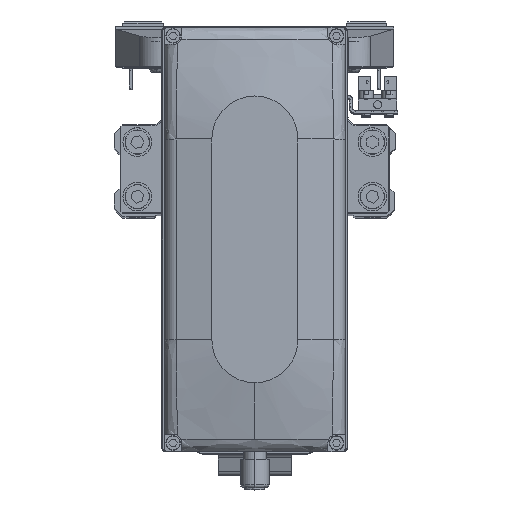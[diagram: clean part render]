
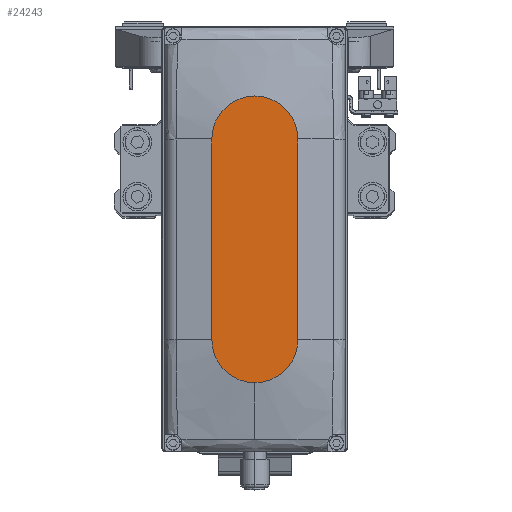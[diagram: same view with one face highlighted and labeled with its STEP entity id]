
A CAD part, top view. The second image highlights one B-rep face of the part: STEP entity #24243.
In plain terms, the highlighted planar face has unit normal (0, 0, 1).
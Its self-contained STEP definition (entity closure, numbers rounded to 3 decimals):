
#867 = CARTESIAN_POINT ( 'NONE',  ( 35., 0., 35. ) ) ;
#1506 = DIRECTION ( 'NONE',  ( 0., 0., 1. ) ) ;
#1923 = CARTESIAN_POINT ( 'NONE',  ( -35., 15., 35. ) ) ;
#3276 = ORIENTED_EDGE ( 'NONE', *, *, #4867, .T. ) ;
#3700 = EDGE_CURVE ( 'NONE', #7565, #12250, #35465, .T. ) ;
#4597 = CIRCLE ( 'NONE', #29237, 15. ) ;
#4832 = DIRECTION ( 'NONE',  ( 0., 0., 1. ) ) ;
#4867 = EDGE_CURVE ( 'NONE', #12250, #23376, #4597, .T. ) ;
#5233 = CARTESIAN_POINT ( 'NONE',  ( -35., -15., 35. ) ) ;
#5633 = VERTEX_POINT ( 'NONE', #17522 ) ;
#6572 = EDGE_CURVE ( 'NONE', #23376, #5633, #12443, .T. ) ;
#6641 = DIRECTION ( 'NONE',  ( 1., 0., 0. ) ) ;
#7565 = VERTEX_POINT ( 'NONE', #37791 ) ;
#9933 = PLANE ( 'NONE',  #12499 ) ;
#12250 = VERTEX_POINT ( 'NONE', #42303 ) ;
#12443 = CIRCLE ( 'NONE', #37115, 15. ) ;
#12489 = CARTESIAN_POINT ( 'NONE',  ( 50., 0., 35. ) ) ;
#12499 = AXIS2_PLACEMENT_3D ( 'NONE', #23418, #36864, #6641 ) ;
#12793 = AXIS2_PLACEMENT_3D ( 'NONE', #35071, #4832, #18290 ) ;
#14327 = DIRECTION ( 'NONE',  ( 0., 0., 1. ) ) ;
#14415 = CARTESIAN_POINT ( 'NONE',  ( -35., 15., 35. ) ) ;
#14958 = DIRECTION ( 'NONE',  ( 1., 0., 0. ) ) ;
#15370 = DIRECTION ( 'NONE',  ( -1., 0., 0. ) ) ;
#16625 = ORIENTED_EDGE ( 'NONE', *, *, #3700, .T. ) ;
#17522 = CARTESIAN_POINT ( 'NONE',  ( 35., 15., 35. ) ) ;
#17932 = VERTEX_POINT ( 'NONE', #14415 ) ;
#18290 = DIRECTION ( 'NONE',  ( 1., 0., 0. ) ) ;
#18639 = VECTOR ( 'NONE', #18693, 1000. ) ;
#18693 = DIRECTION ( 'NONE',  ( 1., 0., 0. ) ) ;
#23376 = VERTEX_POINT ( 'NONE', #12489 ) ;
#23418 = CARTESIAN_POINT ( 'NONE',  ( 0., 0., 35. ) ) ;
#24199 = EDGE_LOOP ( 'NONE', ( #35817, #25776, #16625, #3276, #27851 ) ) ;
#24243 = ADVANCED_FACE ( 'NONE', ( #40172 ), #9933, .T. ) ;
#25776 = ORIENTED_EDGE ( 'NONE', *, *, #34197, .T. ) ;
#27792 = DIRECTION ( 'NONE',  ( 1., 0., 0. ) ) ;
#27851 = ORIENTED_EDGE ( 'NONE', *, *, #6572, .T. ) ;
#29237 = AXIS2_PLACEMENT_3D ( 'NONE', #31722, #1506, #14958 ) ;
#31722 = CARTESIAN_POINT ( 'NONE',  ( 35., 0., 35. ) ) ;
#31830 = CIRCLE ( 'NONE', #12793, 15. ) ;
#32158 = LINE ( 'NONE', #1923, #35482 ) ;
#34197 = EDGE_CURVE ( 'NONE', #17932, #7565, #31830, .T. ) ;
#35071 = CARTESIAN_POINT ( 'NONE',  ( -35., 0., 35. ) ) ;
#35465 = LINE ( 'NONE', #5233, #18639 ) ;
#35482 = VECTOR ( 'NONE', #15370, 1000. ) ;
#35817 = ORIENTED_EDGE ( 'NONE', *, *, #36067, .T. ) ;
#36067 = EDGE_CURVE ( 'NONE', #5633, #17932, #32158, .T. ) ;
#36864 = DIRECTION ( 'NONE',  ( 0., 0., 1. ) ) ;
#37115 = AXIS2_PLACEMENT_3D ( 'NONE', #867, #14327, #27792 ) ;
#37791 = CARTESIAN_POINT ( 'NONE',  ( -35., -15., 35. ) ) ;
#40172 = FACE_OUTER_BOUND ( 'NONE', #24199, .T. ) ;
#42303 = CARTESIAN_POINT ( 'NONE',  ( 35., -15., 35. ) ) ;
